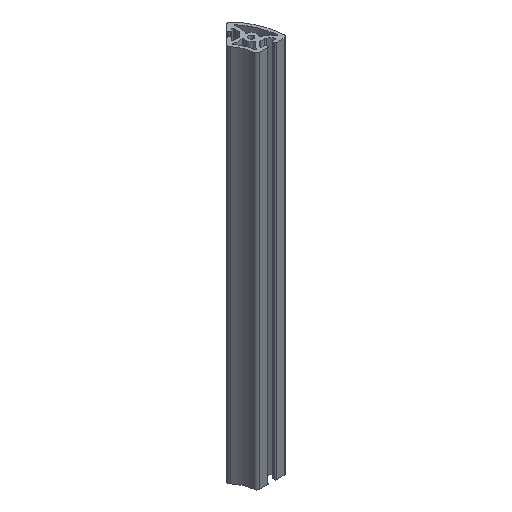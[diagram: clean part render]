
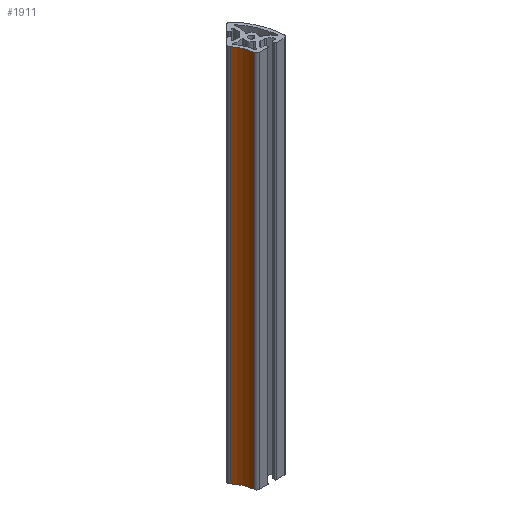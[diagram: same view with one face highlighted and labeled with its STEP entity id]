
A CAD part, isometric view. The second image highlights one B-rep face of the part: STEP entity #1911.
In plain terms, the highlighted cylindrical face has radius 40 mm (diameter 80 mm), a partial arc.
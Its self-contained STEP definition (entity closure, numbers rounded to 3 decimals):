
#63 = DIRECTION ( 'NONE',  ( 0., 0., -1. ) ) ;
#64 = CARTESIAN_POINT ( 'NONE',  ( -27839.931, -23045.279, 500. ) ) ;
#215 = VECTOR ( 'NONE', #219, 1000. ) ;
#216 = LINE ( 'NONE', #218, #215 ) ;
#217 = DIRECTION ( 'NONE',  ( -1., 0., 0. ) ) ;
#218 = CARTESIAN_POINT ( 'NONE',  ( -27800.097, -23041.642, 500. ) ) ;
#219 = DIRECTION ( 'NONE',  ( 0., 0., -1. ) ) ;
#221 = CYLINDRICAL_SURFACE ( 'NONE', #228, 40. ) ;
#228 = AXIS2_PLACEMENT_3D ( 'NONE', #64, #63, #217 ) ;
#229 = FACE_OUTER_BOUND ( 'NONE', #1936, .T. ) ;
#423 = AXIS2_PLACEMENT_3D ( 'NONE', #509, #508, #507 ) ;
#507 = DIRECTION ( 'NONE',  ( 1., 0., 0. ) ) ;
#508 = DIRECTION ( 'NONE',  ( 0., 0., -1. ) ) ;
#509 = CARTESIAN_POINT ( 'NONE',  ( -27839.931, -23045.279, 0. ) ) ;
#513 = CIRCLE ( 'NONE', #423, 40. ) ;
#862 = CARTESIAN_POINT ( 'NONE',  ( -27800.097, -23041.642, 0. ) ) ;
#1032 = CARTESIAN_POINT ( 'NONE',  ( -27809.193, -23019.683, 500. ) ) ;
#1347 = DIRECTION ( 'NONE',  ( 1., 0., 0. ) ) ;
#1348 = DIRECTION ( 'NONE',  ( 0., 0., -1. ) ) ;
#1349 = AXIS2_PLACEMENT_3D ( 'NONE', #1358, #1348, #1347 ) ;
#1358 = CARTESIAN_POINT ( 'NONE',  ( -27839.931, -23045.279, 500. ) ) ;
#1359 = LINE ( 'NONE', #1432, #1431 ) ;
#1360 = CIRCLE ( 'NONE', #1349, 40. ) ;
#1375 = CARTESIAN_POINT ( 'NONE',  ( -27800.097, -23041.642, 500. ) ) ;
#1429 = CARTESIAN_POINT ( 'NONE',  ( -27809.193, -23019.683, 0. ) ) ;
#1430 = DIRECTION ( 'NONE',  ( 0., 0., -1. ) ) ;
#1431 = VECTOR ( 'NONE', #1430, 1000. ) ;
#1432 = CARTESIAN_POINT ( 'NONE',  ( -27809.193, -23019.683, 500. ) ) ;
#1615 = VERTEX_POINT ( 'NONE', #1032 ) ;
#1700 = EDGE_CURVE ( 'NONE', #1615, #1751, #1360, .T. ) ;
#1706 = EDGE_CURVE ( 'NONE', #1615, #1711, #1359, .T. ) ;
#1711 = VERTEX_POINT ( 'NONE', #1429 ) ;
#1751 = VERTEX_POINT ( 'NONE', #1375 ) ;
#1830 = ORIENTED_EDGE ( 'NONE', *, *, #1912, .F. ) ;
#1911 = ADVANCED_FACE ( 'NONE', ( #229 ), #221, .F. ) ;
#1912 = EDGE_CURVE ( 'NONE', #1751, #1976, #216, .T. ) ;
#1913 = ORIENTED_EDGE ( 'NONE', *, *, #1706, .T. ) ;
#1936 = EDGE_LOOP ( 'NONE', ( #1937, #1830, #1962, #1913 ) ) ;
#1937 = ORIENTED_EDGE ( 'NONE', *, *, #2161, .T. ) ;
#1962 = ORIENTED_EDGE ( 'NONE', *, *, #1700, .F. ) ;
#1976 = VERTEX_POINT ( 'NONE', #862 ) ;
#2161 = EDGE_CURVE ( 'NONE', #1711, #1976, #513, .T. ) ;
